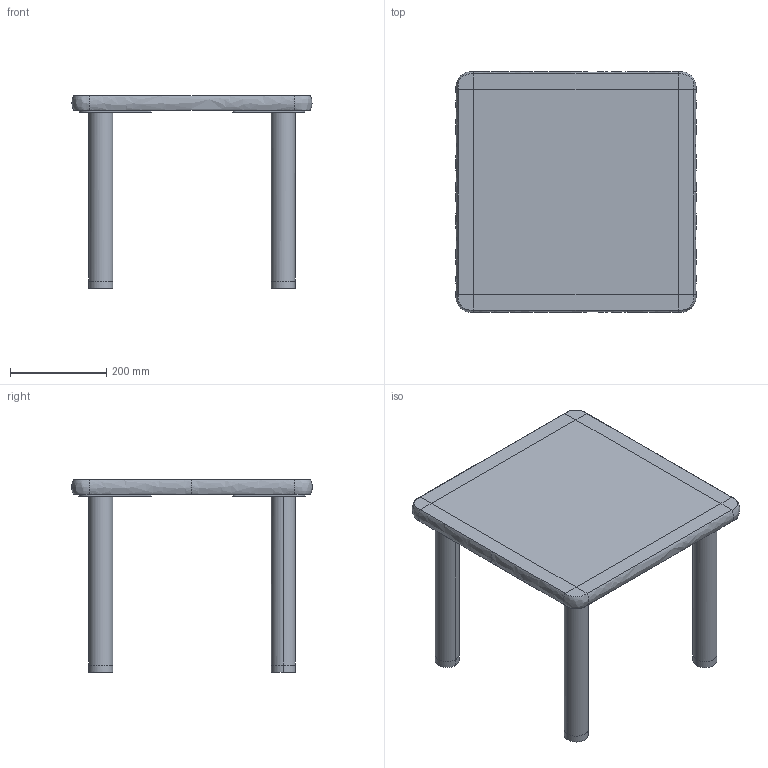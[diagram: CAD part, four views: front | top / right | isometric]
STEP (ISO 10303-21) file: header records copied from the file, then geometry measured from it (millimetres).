
FILE_DESCRIPTION(/* description */ (''),/* implementation_level */ '2;1');
FILE_NAME(/* name */ 'kinoshita_baobabland_kh-500-500',/* time_stamp */ '2025-04-18T19:54:45+09:00',/* author */ (''),/* organization */ (''),/* preprocessor_version */ 'ST-DEVELOPER v16.5',/* originating_system */ '',/* authorisation */ '');
FILE_SCHEMA (('AUTOMOTIVE_DESIGN'));
Length unit declared in the file: millimetre
Products named in the file (1): Document
Bounding box: 499.01 x 500 x 400 mm (x, y, z)
Volume: 10470076 mm3; surface area: 883043.2 mm2
Topology: 5 solids, 5 shells, 132 faces, 334 edges, 208 vertices
Faces by surface type: bspline 106, plane 26
Entity records: 10379 total; most frequent: CARTESIAN_POINT 8386, ORIENTED_EDGE 652, EDGE_CURVE 326, VERTEX_POINT 208, EDGE_LOOP 184, B_SPLINE_CURVE_WITH_KNOTS 158, ADVANCED_FACE 132, FACE_OUTER_BOUND 132
